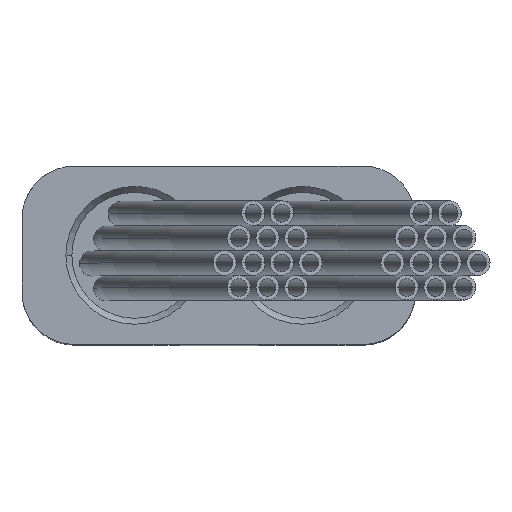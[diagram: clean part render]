
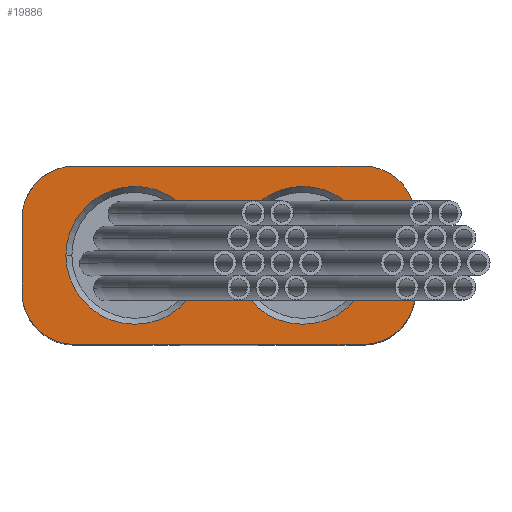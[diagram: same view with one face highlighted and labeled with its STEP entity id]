
A CAD part, top view. The second image highlights one B-rep face of the part: STEP entity #19886.
In plain terms, the highlighted planar face has unit normal (0, 0, 1).
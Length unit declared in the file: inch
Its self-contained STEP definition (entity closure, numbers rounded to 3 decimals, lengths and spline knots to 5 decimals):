
#854 = CARTESIAN_POINT ( 'NONE',  ( -0.72841, 0., 0. ) ) ;
#1345 = CARTESIAN_POINT ( 'NONE',  ( -0.9375, -0.175, 0. ) ) ;
#1574 = CARTESIAN_POINT ( 'NONE',  ( 0.72841, 0., 0. ) ) ;
#2115 = AXIS2_PLACEMENT_3D ( 'NONE', #8069, #13155, #8214 ) ;
#2409 = EDGE_CURVE ( 'NONE', #7751, #12043, #24613, .T. ) ;
#2532 = CARTESIAN_POINT ( 'NONE',  ( -0.9375, -0.425, 0. ) ) ;
#2680 = DIRECTION ( 'NONE',  ( 0., 0., 1. ) ) ;
#2859 = ORIENTED_EDGE ( 'NONE', *, *, #14348, .T. ) ;
#2919 = EDGE_CURVE ( 'NONE', #19724, #10304, #16996, .T. ) ;
#3042 = VERTEX_POINT ( 'NONE', #1574 ) ;
#3121 = VERTEX_POINT ( 'NONE', #11742 ) ;
#3685 = VERTEX_POINT ( 'NONE', #12508 ) ;
#3728 = DIRECTION ( 'NONE',  ( -1., 0., 0. ) ) ;
#4046 = VECTOR ( 'NONE', #21937, 39.37008 ) ;
#4614 = ORIENTED_EDGE ( 'NONE', *, *, #2409, .T. ) ;
#4782 = DIRECTION ( 'NONE',  ( -1., 0., 0. ) ) ;
#4804 = CARTESIAN_POINT ( 'NONE',  ( -0.07159, 0., 0. ) ) ;
#4982 = CARTESIAN_POINT ( 'NONE',  ( 0.6875, -0.175, 0. ) ) ;
#5475 = VERTEX_POINT ( 'NONE', #15900 ) ;
#5663 = DIRECTION ( 'NONE',  ( 0., 0., -1. ) ) ;
#5667 = EDGE_LOOP ( 'NONE', ( #17665, #4614 ) ) ;
#5741 = DIRECTION ( 'NONE',  ( 0., 0., 1. ) ) ;
#5869 = VECTOR ( 'NONE', #8025, 39.37008 ) ;
#5999 = ORIENTED_EDGE ( 'NONE', *, *, #2919, .F. ) ;
#6116 = CARTESIAN_POINT ( 'NONE',  ( -0.4, 0., 0. ) ) ;
#6276 = AXIS2_PLACEMENT_3D ( 'NONE', #14074, #23076, #18573 ) ;
#6806 = ORIENTED_EDGE ( 'NONE', *, *, #16010, .T. ) ;
#7751 = VERTEX_POINT ( 'NONE', #854 ) ;
#7975 = DIRECTION ( 'NONE',  ( 0., 0., 1. ) ) ;
#8025 = DIRECTION ( 'NONE',  ( 0., 1., 0. ) ) ;
#8069 = CARTESIAN_POINT ( 'NONE',  ( 0.4, 0., 0. ) ) ;
#8214 = DIRECTION ( 'NONE',  ( 1., 0., 0. ) ) ;
#8504 = EDGE_CURVE ( 'NONE', #12043, #7751, #29253, .T. ) ;
#8713 = EDGE_LOOP ( 'NONE', ( #17983, #20454 ) ) ;
#8825 = EDGE_CURVE ( 'NONE', #3685, #3042, #26520, .T. ) ;
#9029 = CIRCLE ( 'NONE', #26241, 0.25 ) ;
#9507 = EDGE_CURVE ( 'NONE', #19724, #24817, #14627, .T. ) ;
#9758 = DIRECTION ( 'NONE',  ( 0., 0., 1. ) ) ;
#10147 = AXIS2_PLACEMENT_3D ( 'NONE', #28507, #7975, #17094 ) ;
#10304 = VERTEX_POINT ( 'NONE', #21309 ) ;
#10932 = DIRECTION ( 'NONE',  ( 0., 0., 1. ) ) ;
#11471 = ORIENTED_EDGE ( 'NONE', *, *, #13991, .T. ) ;
#11742 = CARTESIAN_POINT ( 'NONE',  ( 0.9375, 0.175, 0. ) ) ;
#12043 = VERTEX_POINT ( 'NONE', #4804 ) ;
#12220 = CARTESIAN_POINT ( 'NONE',  ( -0.9375, -0.425, 0. ) ) ;
#12487 = CARTESIAN_POINT ( 'NONE',  ( -0.6875, -0.175, 0. ) ) ;
#12508 = CARTESIAN_POINT ( 'NONE',  ( 0.07159, 0., 0. ) ) ;
#12631 = AXIS2_PLACEMENT_3D ( 'NONE', #2532, #2680, #13463 ) ;
#12652 = ORIENTED_EDGE ( 'NONE', *, *, #19832, .T. ) ;
#13155 = DIRECTION ( 'NONE',  ( 0., 0., 1. ) ) ;
#13463 = DIRECTION ( 'NONE',  ( 1., 0., 0. ) ) ;
#13710 = VERTEX_POINT ( 'NONE', #17728 ) ;
#13901 = FACE_BOUND ( 'NONE', #5667, .T. ) ;
#13958 = DIRECTION ( 'NONE',  ( 1., 0., 0. ) ) ;
#13991 = EDGE_CURVE ( 'NONE', #24817, #26298, #27920, .T. ) ;
#14072 = AXIS2_PLACEMENT_3D ( 'NONE', #26677, #10932, #4782 ) ;
#14074 = CARTESIAN_POINT ( 'NONE',  ( -0.4, 0., 0. ) ) ;
#14090 = CARTESIAN_POINT ( 'NONE',  ( -0.6875, 0.175, 0. ) ) ;
#14348 = EDGE_CURVE ( 'NONE', #26298, #13710, #9029, .T. ) ;
#14627 = CIRCLE ( 'NONE', #29004, 0.25 ) ;
#14866 = DIRECTION ( 'NONE',  ( 1., 0., 0. ) ) ;
#15900 = CARTESIAN_POINT ( 'NONE',  ( 0.6875, 0.425, 0. ) ) ;
#16010 = EDGE_CURVE ( 'NONE', #5475, #18632, #24357, .T. ) ;
#16218 = CARTESIAN_POINT ( 'NONE',  ( -0.9375, -0.425, 0. ) ) ;
#16541 = EDGE_LOOP ( 'NONE', ( #24455, #12652, #6806, #21515, #5999, #22303, #11471, #2859 ) ) ;
#16822 = CIRCLE ( 'NONE', #10147, 0.32841 ) ;
#16996 = LINE ( 'NONE', #12220, #5869 ) ;
#17094 = DIRECTION ( 'NONE',  ( 1., 0., 0. ) ) ;
#17665 = ORIENTED_EDGE ( 'NONE', *, *, #8504, .T. ) ;
#17728 = CARTESIAN_POINT ( 'NONE',  ( 0.9375, -0.175, 0. ) ) ;
#17983 = ORIENTED_EDGE ( 'NONE', *, *, #8825, .F. ) ;
#18368 = CARTESIAN_POINT ( 'NONE',  ( -0.6875, -0.425, 0. ) ) ;
#18557 = VECTOR ( 'NONE', #25823, 39.37008 ) ;
#18573 = DIRECTION ( 'NONE',  ( -1., 0., 0. ) ) ;
#18632 = VERTEX_POINT ( 'NONE', #25406 ) ;
#18792 = CIRCLE ( 'NONE', #14072, 0.25 ) ;
#19436 = EDGE_CURVE ( 'NONE', #13710, #3121, #28385, .T. ) ;
#19724 = VERTEX_POINT ( 'NONE', #1345 ) ;
#19832 = EDGE_CURVE ( 'NONE', #3121, #5475, #18792, .T. ) ;
#19886 = ADVANCED_FACE ( 'NONE', ( #13901, #20808, #25458 ), #23204, .T. ) ;
#20262 = AXIS2_PLACEMENT_3D ( 'NONE', #14090, #9758, #25209 ) ;
#20297 = CARTESIAN_POINT ( 'NONE',  ( 0.6875, -0.425, 0. ) ) ;
#20454 = ORIENTED_EDGE ( 'NONE', *, *, #25400, .F. ) ;
#20762 = EDGE_CURVE ( 'NONE', #18632, #10304, #28380, .T. ) ;
#20808 = FACE_OUTER_BOUND ( 'NONE', #16541, .T. ) ;
#21309 = CARTESIAN_POINT ( 'NONE',  ( -0.9375, 0.175, 0. ) ) ;
#21360 = CARTESIAN_POINT ( 'NONE',  ( 0.9375, 0.425, 0. ) ) ;
#21515 = ORIENTED_EDGE ( 'NONE', *, *, #20762, .T. ) ;
#21633 = CARTESIAN_POINT ( 'NONE',  ( 0.9375, -0.425, 0. ) ) ;
#21937 = DIRECTION ( 'NONE',  ( 0., 1., 0. ) ) ;
#22303 = ORIENTED_EDGE ( 'NONE', *, *, #9507, .T. ) ;
#23076 = DIRECTION ( 'NONE',  ( 0., 0., -1. ) ) ;
#23166 = AXIS2_PLACEMENT_3D ( 'NONE', #6116, #5663, #3728 ) ;
#23204 = PLANE ( 'NONE',  #12631 ) ;
#24357 = LINE ( 'NONE', #21360, #26326 ) ;
#24455 = ORIENTED_EDGE ( 'NONE', *, *, #19436, .T. ) ;
#24613 = CIRCLE ( 'NONE', #23166, 0.32841 ) ;
#24817 = VERTEX_POINT ( 'NONE', #18368 ) ;
#24940 = DIRECTION ( 'NONE',  ( 0., 0., 1. ) ) ;
#25209 = DIRECTION ( 'NONE',  ( -1., 0., 0. ) ) ;
#25400 = EDGE_CURVE ( 'NONE', #3042, #3685, #16822, .T. ) ;
#25406 = CARTESIAN_POINT ( 'NONE',  ( -0.6875, 0.425, 0. ) ) ;
#25458 = FACE_BOUND ( 'NONE', #8713, .T. ) ;
#25823 = DIRECTION ( 'NONE',  ( 1., 0., 0. ) ) ;
#26241 = AXIS2_PLACEMENT_3D ( 'NONE', #4982, #24940, #13958 ) ;
#26298 = VERTEX_POINT ( 'NONE', #20297 ) ;
#26326 = VECTOR ( 'NONE', #28395, 39.37008 ) ;
#26520 = CIRCLE ( 'NONE', #2115, 0.32841 ) ;
#26677 = CARTESIAN_POINT ( 'NONE',  ( 0.6875, 0.175, 0. ) ) ;
#27920 = LINE ( 'NONE', #16218, #18557 ) ;
#28380 = CIRCLE ( 'NONE', #20262, 0.25 ) ;
#28385 = LINE ( 'NONE', #21633, #4046 ) ;
#28395 = DIRECTION ( 'NONE',  ( -1., 0., 0. ) ) ;
#28507 = CARTESIAN_POINT ( 'NONE',  ( 0.4, 0., 0. ) ) ;
#29004 = AXIS2_PLACEMENT_3D ( 'NONE', #12487, #5741, #14866 ) ;
#29253 = CIRCLE ( 'NONE', #6276, 0.32841 ) ;
